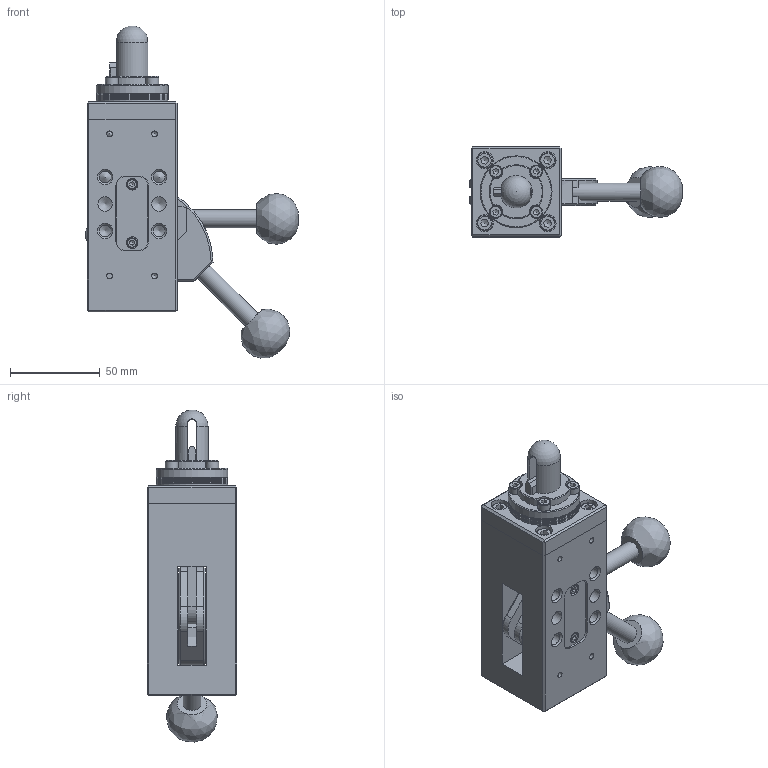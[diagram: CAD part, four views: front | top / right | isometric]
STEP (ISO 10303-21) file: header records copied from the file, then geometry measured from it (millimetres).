
FILE_DESCRIPTION(/* description */ (''),/* implementation_level */ '2;1');
FILE_NAME(/* name */ 'S:\Tom\INVENTOR FILES\AUTOMOTIVE\UNDERBODY CLAMPS\XPCB\SIMPLIFIED MODELS\STEP\XPCB-18-01-NS.stp',/* time_stamp */ '2021-06-08T10:14:07+01:00',/* author */ ('RWilson'),/* organization */ (''),/* preprocessor_version */ 'ST-DEVELOPER v18.1',/* originating_system */ 'Autodesk Inventor 2021',/* authorisation */ '');
FILE_SCHEMA (('AUTOMOTIVE_DESIGN { 1 0 10303 214 3 1 1 }'));
Length unit declared in the file: millimetre
Products named in the file (9): XPCB-18-01; XPCB - BODY; XPCB - HANDLE; XPCB - TOP PLATE; XPCB - 1MM SHIM; XPCB - 0.5MM SHIM; XPCB - 18MM CLAMPING RING & PIN; XPCB - 18MM HOOK; XPCB - BLANKING COVER
Assembly tree (13 placements, depth 2):
  XPCB-18-01
    XPCB - BODY
    XPCB - HANDLE  x2
    XPCB - TOP PLATE
    XPCB - 0.5MM SHIM  x2
    XPCB - 1MM SHIM  x3
    XPCB - 18MM CLAMPING RING & PIN
    XPCB - 18MM HOOK
    XPCB - BLANKING COVER  x2
Bounding box: 118.38 x 50 x 184.64 mm (x, y, z)
Volume: 337754.7 mm3; surface area: 102255.8 mm2
Topology: 13 solids, 23 shells, 539 faces, 1428 edges, 954 vertices
Faces by surface type: plane 256, cylinder 154, cone 106, torus 16, bspline 6, sphere 1
Full cylindrical faces by diameter (mm): 2.459 x4, 3 x8, 3.2 x4, 3.242 x8, 4.917 x3, 5.5 x4, 6 x3, 6.5 x4, 6.6 x3, 6.647 x12, 7 x4, 8 x6, 8.376 x2, 8.5 x4, 9.5 x4, 10 x5, 40 x6
Entity records: 13681 total; most frequent: CARTESIAN_POINT 2759, DIRECTION 2298, ORIENTED_EDGE 2174, EDGE_CURVE 1087, AXIS2_PLACEMENT_3D 882, VERTEX_POINT 760, LINE 534, VECTOR 534
